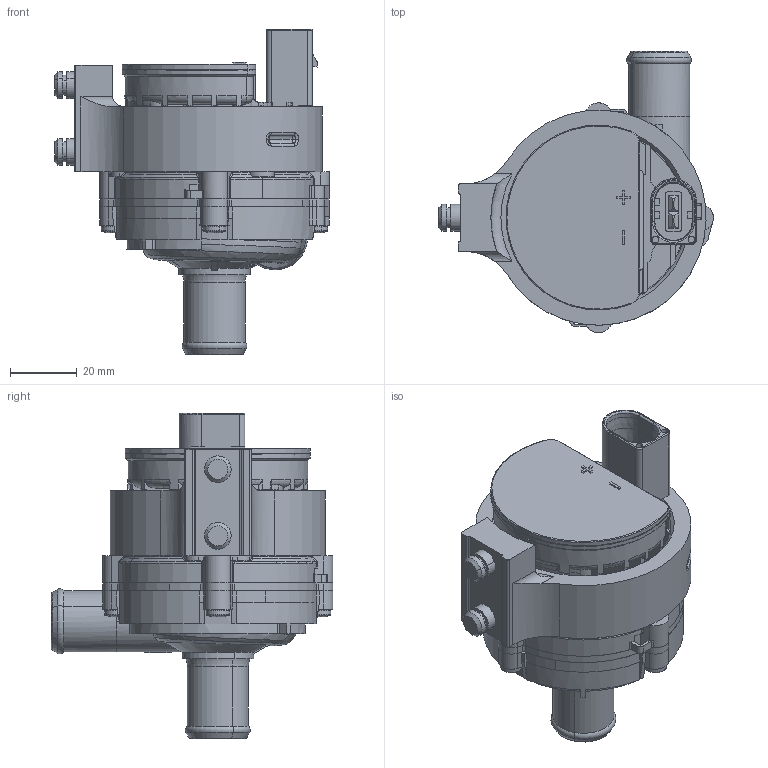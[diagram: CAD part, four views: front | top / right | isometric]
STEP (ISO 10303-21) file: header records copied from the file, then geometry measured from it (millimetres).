
FILE_DESCRIPTION(('CATIA V5 STEP Exchange'),'2;1');
FILE_NAME('J:\Datenaustausch\PAD1\aus\2014\20140205_PAD_117_Lutterodt_AA\0 392 023 117 Kundenzustand_AllCATPart.stp','2014-02-05T06:50:54+00:00',('none'),('none'),'CATIA Version 5 Release 19 SP 9 (IN-10)','CATIA V5 STEP AP214','none');
FILE_SCHEMA(('AUTOMOTIVE_DESIGN { 1 0 10303 214 1 1 1 1 }'));
Products named in the file (1): 0 392 023 117 Kundenzustand_AllCATPart
Bounding box: 82.5 x 84.5 x 97.8 mm (x, y, z)
Volume: 156993.8 mm3; surface area: 59928.9 mm2
Topology: 14 solids, 22 shells, 1402 faces, 3582 edges, 2183 vertices
Faces by surface type: cylinder 474, plane 428, bspline 166, cone 133, torus 132, sphere 69
Entity records: 55822 total; most frequent: CARTESIAN_POINT 21008, ORIENTED_EDGE 7000, DIRECTION 4716, EDGE_CURVE 3514, AXIS2_PLACEMENT_3D 2331, VERTEX_POINT 2183, EDGE_LOOP 1466, VECTOR 1433
